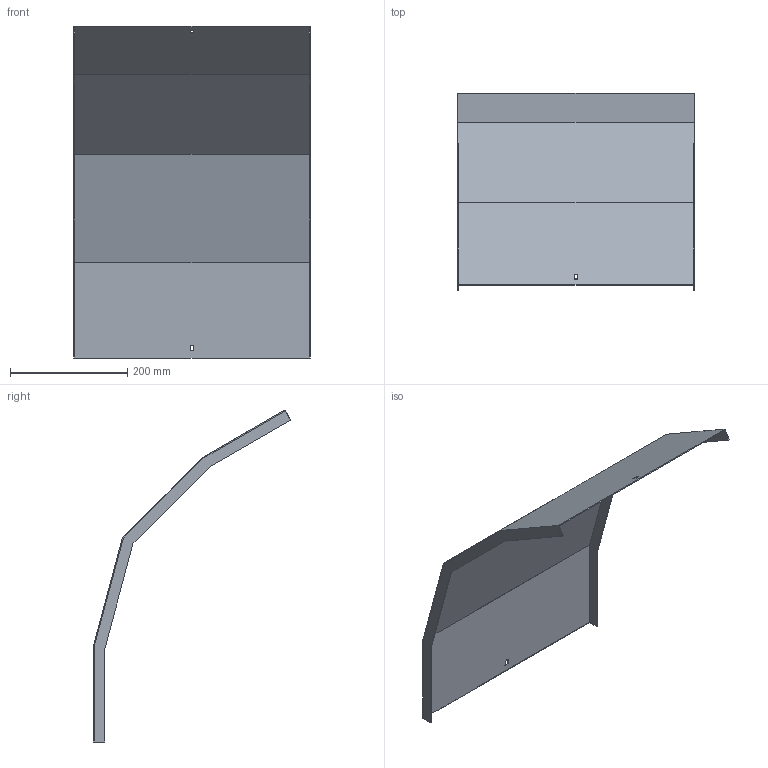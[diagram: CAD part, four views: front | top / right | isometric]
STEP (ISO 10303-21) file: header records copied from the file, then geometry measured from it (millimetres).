
FILE_DESCRIPTION (( 'STEP AP214' ), '1' );
FILE_NAME ('A2_41N3C400.step', '2025-02-21T10:39:18', ( '' ), ( '' ), 'SwSTEP 2.0', 'SolidWorks 2023', '' );
FILE_SCHEMA (( 'AUTOMOTIVE_DESIGN' ));
Length unit declared in the file: millimetre
Products named in the file (1): A2_41N3C400
Bounding box: 403 x 337.26 x 566.83 mm (x, y, z)
Volume: 468134 mm3; surface area: 627664 mm2
Topology: 1 solids, 1 shells, 30 faces, 84 edges, 56 vertices
Faces by surface type: plane 30
Entity records: 979 total; most frequent: CARTESIAN_POINT 171, ORIENTED_EDGE 168, DIRECTION 146, EDGE_CURVE 84, LINE 84, VECTOR 84, VERTEX_POINT 56, EDGE_LOOP 34
